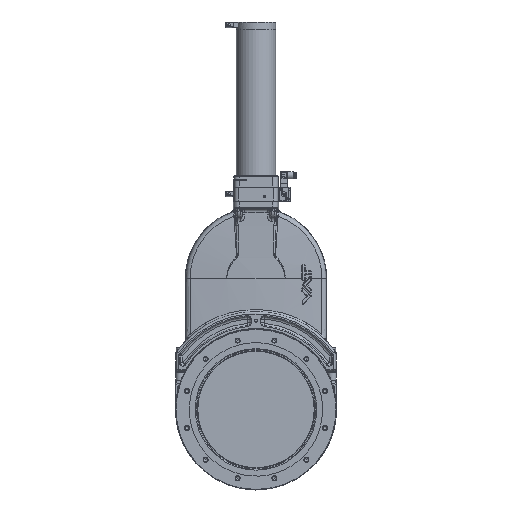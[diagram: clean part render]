
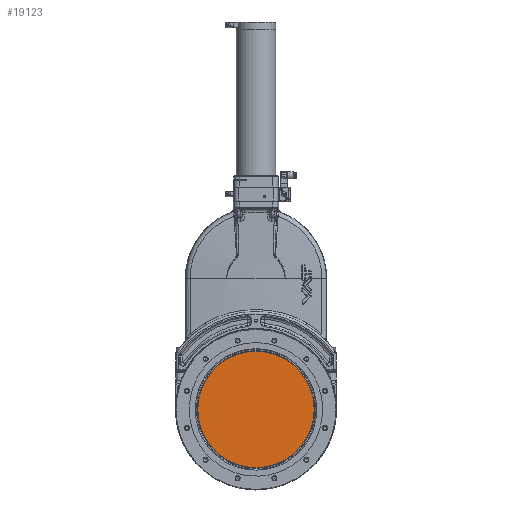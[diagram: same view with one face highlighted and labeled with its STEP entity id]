
A CAD part, top view. The second image highlights one B-rep face of the part: STEP entity #19123.
In plain terms, the highlighted planar face has unit normal (0, 0, 1).
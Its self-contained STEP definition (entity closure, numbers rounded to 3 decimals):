
#14415=CIRCLE('',#71768,126.573);
#19123=ADVANCED_FACE('',(#23668),#20919,.F.);
#20919=PLANE('',#71769);
#23668=FACE_OUTER_BOUND('',#27380,.T.);
#27380=EDGE_LOOP('',(#45015));
#45015=ORIENTED_EDGE('',*,*,#60645,.T.);
#52812=VERTEX_POINT('',#134640);
#60645=EDGE_CURVE('',#52812,#52812,#14415,.T.);
#71768=AXIS2_PLACEMENT_3D('',#134639,#82962,#82963);
#71769=AXIS2_PLACEMENT_3D('',#134641,#82964,#82965);
#82962=DIRECTION('',(0.,0.,1.));
#82963=DIRECTION('',(1.,0.,0.));
#82964=DIRECTION('',(0.,0.,-1.));
#82965=DIRECTION('',(-1.,0.,0.));
#134639=CARTESIAN_POINT('',(0.,0.,6.));
#134640=CARTESIAN_POINT('',(126.573,0.,6.));
#134641=CARTESIAN_POINT('',(0.,126.573,6.));
